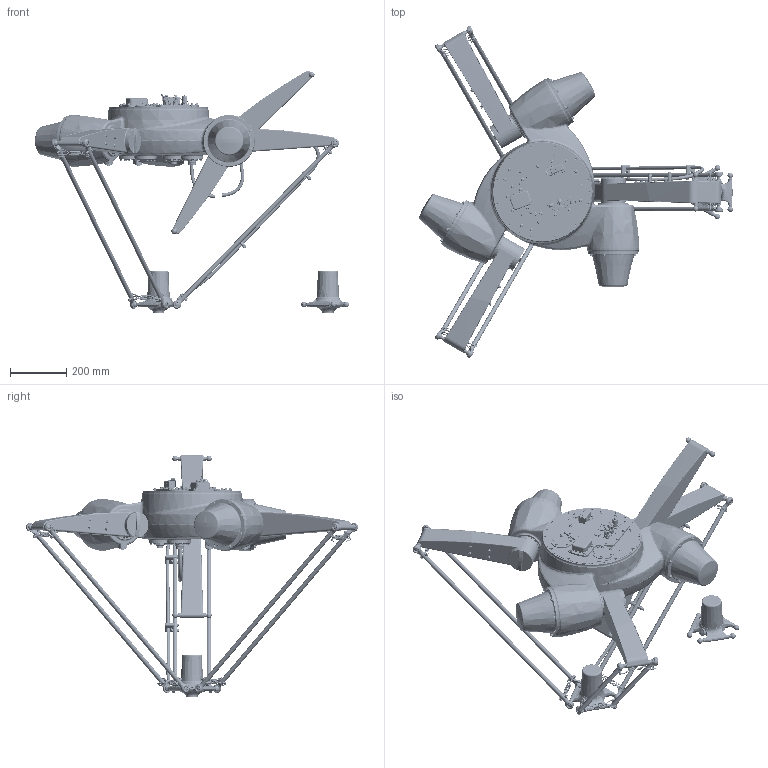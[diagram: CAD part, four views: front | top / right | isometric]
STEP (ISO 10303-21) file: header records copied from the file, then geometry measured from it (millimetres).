
FILE_DESCRIPTION(/* description */ (''),/* implementation_level */ '2;1');
FILE_NAME(/* name */ '394.073-10.001.00-01umm000~00.stp',/* time_stamp */ '2020-11-09T09:28:09+08:00',/* author */ (''),/* organization */ (''),/* preprocessor_version */ 'ST-DEVELOPER v16.7',/* originating_system */ 'SIEMENS PLM Software NX 12.0',/* authorisation */ '');
FILE_SCHEMA (('AUTOMOTIVE_DESIGN { 1 0 10303 214 3 1 1 1 }'));
Length unit declared in the file: millimetre
Products named in the file (13): 394.073-10.001.02-03umm000~00; 394.073-10.001.02-02umm000~00; 394.073-10.001.06-04umm000~00; 394.073-10.001.06-03umm000~00; 394.073-10.001.06-02umm000~00; 394.073-10.001.06-01umm000~00; 394.073-10.001.07-01umm000~00; 394.073-10.001.05-01umm000~00; 394.073-10.001.04-01umm000~00; 394.073-10.001.03-01umm000~00; 394.073-10.001.02-01umm000~00; 394.073-10.001.01-01umm000~00; 394.073-10.001.00-01umm000~00
Assembly tree (26 placements, depth 2):
  394.073-10.001.00-01umm000~00
    394.073-10.001.01-01umm000~00
    394.073-10.001.02-01umm000~00  x3
    394.073-10.001.03-01umm000~00  x6
    394.073-10.001.04-01umm000~00  x2
    394.073-10.001.05-01umm000~00  x2
    394.073-10.001.07-01umm000~00  x6
    394.073-10.001.06-01umm000~00
    394.073-10.001.06-02umm000~00
    394.073-10.001.06-03umm000~00
    394.073-10.001.06-04umm000~00
    394.073-10.001.02-02umm000~00
    394.073-10.001.02-03umm000~00
Bounding box: 1112.69 x 1176.24 x 857.5 mm (x, y, z)
Volume: 50762432.1 mm3; surface area: 2821049.3 mm2
Topology: 47 solids, 50 shells, 13693 faces, 35350 edges, 22274 vertices
Faces by surface type: plane 4609, cylinder 3559, torus 2349, bspline 1684, cone 1197, sphere 295
Full cylindrical faces by diameter (mm): 180 x3
Entity records: 374227 total; most frequent: CARTESIAN_POINT 153082, ORIENTED_EDGE 49108, DIRECTION 42256, EDGE_CURVE 24554, AXIS2_PLACEMENT_3D 16179, VERTEX_POINT 15873, EDGE_LOOP 10297, LINE 9898
